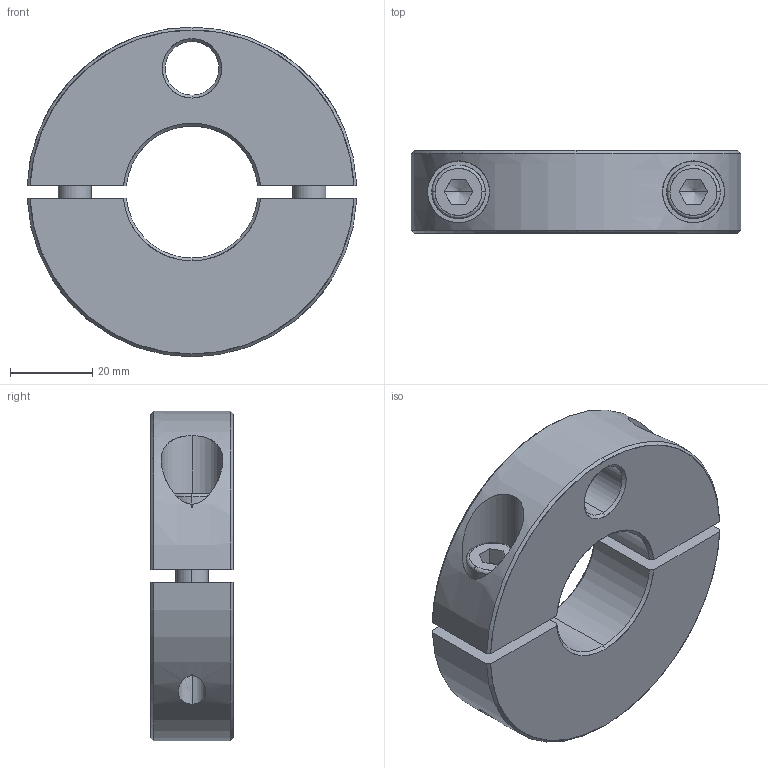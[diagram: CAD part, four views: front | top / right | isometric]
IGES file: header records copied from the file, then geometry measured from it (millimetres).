
Start section: SolidWorks IGES FILE using analytic representation for surfaces
Global section: file name: C:\WIX2\Positioning\3865\3865W132.igs; native system: SolidWorks 2003 by SolidWorks Corporation; preprocessor: Version 5.3; author: Joan; date: 030722.173017; units: millimetre
Bounding box: 79.94 x 20 x 80 mm (x, y, z)
Surface area: 22742.5 mm2 (no closed solid volume)
Topology: 0 solids, 0 shells, 100 faces, 1665 edges, 1661 vertices
Faces by surface type: revolution 66, bspline 34
